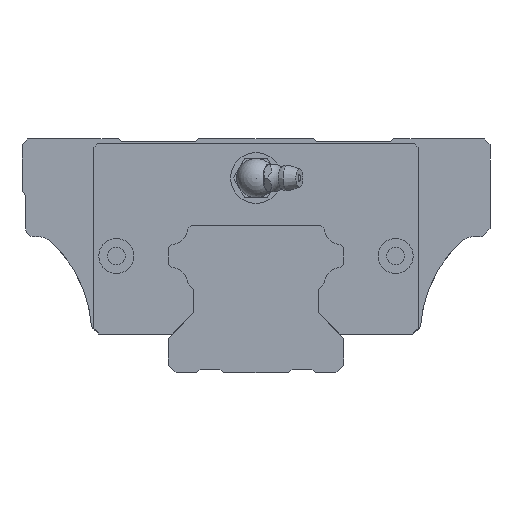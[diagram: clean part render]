
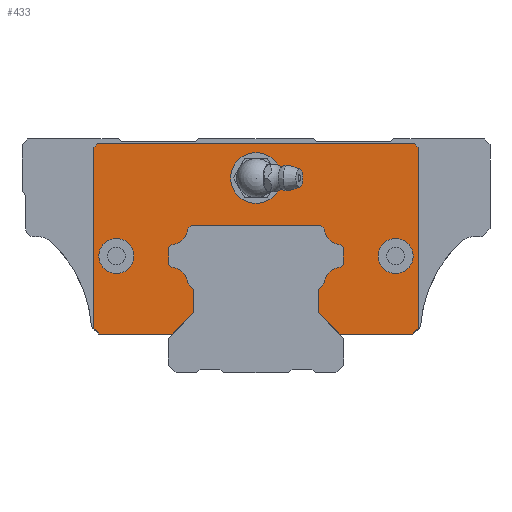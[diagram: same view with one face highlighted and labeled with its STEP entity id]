
A CAD part, front view. The second image highlights one B-rep face of the part: STEP entity #433.
In plain terms, the highlighted planar face has unit normal (0, -1, 0).
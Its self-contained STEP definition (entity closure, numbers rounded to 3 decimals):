
#128=FACE_BOUND('',#877,.T.);
#129=FACE_BOUND('',#878,.T.);
#130=FACE_BOUND('',#879,.T.);
#264=PLANE('',#3931);
#433=ADVANCED_FACE('',(#128,#129,#130,#683),#264,.F.);
#683=FACE_OUTER_BOUND('',#880,.T.);
#877=EDGE_LOOP('',(#2282));
#878=EDGE_LOOP('',(#2283));
#879=EDGE_LOOP('',(#2284));
#880=EDGE_LOOP('',(#2285,#2286,#2287,#2288,#2289,#2290,#2291,#2292,#2293,
#2294,#2295,#2296,#2297,#2298,#2299,#2300,#2301,#2302,#2303,#2304,#2305,
#2306,#2307,#2308,#2309,#2310,#2311,#2312));
#1124=LINE('',#5431,#1482);
#1129=LINE('',#5441,#1487);
#1132=LINE('',#5447,#1490);
#1135=LINE('',#5453,#1493);
#1139=LINE('',#5465,#1497);
#1142=LINE('',#5471,#1500);
#1145=LINE('',#5477,#1503);
#1149=LINE('',#5489,#1507);
#1152=LINE('',#5495,#1510);
#1155=LINE('',#5501,#1513);
#1159=LINE('',#5513,#1517);
#1162=LINE('',#5519,#1520);
#1165=LINE('',#5525,#1523);
#1169=LINE('',#5537,#1527);
#1172=LINE('',#5543,#1530);
#1175=LINE('',#5549,#1533);
#1178=LINE('',#5555,#1536);
#1237=LINE('',#5710,#1595);
#1239=LINE('',#5714,#1597);
#1241=LINE('',#5718,#1599);
#1243=LINE('',#5722,#1601);
#1245=LINE('',#5726,#1603);
#1246=LINE('',#5728,#1604);
#1248=LINE('',#5732,#1606);
#1482=VECTOR('',#4324,1.);
#1487=VECTOR('',#4331,1.);
#1490=VECTOR('',#4336,1.);
#1493=VECTOR('',#4341,1.);
#1497=VECTOR('',#4353,1.);
#1500=VECTOR('',#4358,1.);
#1503=VECTOR('',#4363,1.);
#1507=VECTOR('',#4375,1.);
#1510=VECTOR('',#4380,1.);
#1513=VECTOR('',#4385,1.);
#1517=VECTOR('',#4397,1.);
#1520=VECTOR('',#4402,1.);
#1523=VECTOR('',#4407,1.);
#1527=VECTOR('',#4419,1.);
#1530=VECTOR('',#4424,1.);
#1533=VECTOR('',#4429,1.);
#1536=VECTOR('',#4434,1.);
#1595=VECTOR('',#4591,1.);
#1597=VECTOR('',#4595,1.);
#1599=VECTOR('',#4599,1.);
#1601=VECTOR('',#4603,1.);
#1603=VECTOR('',#4607,1.);
#1604=VECTOR('',#4610,1.);
#1606=VECTOR('',#4614,1.);
#2282=ORIENTED_EDGE('',*,*,#3434,.F.);
#2283=ORIENTED_EDGE('',*,*,#3435,.F.);
#2284=ORIENTED_EDGE('',*,*,#3436,.F.);
#2285=ORIENTED_EDGE('',*,*,#3422,.F.);
#2286=ORIENTED_EDGE('',*,*,#3433,.T.);
#2287=ORIENTED_EDGE('',*,*,#3431,.T.);
#2288=ORIENTED_EDGE('',*,*,#3347,.T.);
#2289=ORIENTED_EDGE('',*,*,#3344,.F.);
#2290=ORIENTED_EDGE('',*,*,#3341,.F.);
#2291=ORIENTED_EDGE('',*,*,#3338,.T.);
#2292=ORIENTED_EDGE('',*,*,#3335,.T.);
#2293=ORIENTED_EDGE('',*,*,#3332,.T.);
#2294=ORIENTED_EDGE('',*,*,#3329,.F.);
#2295=ORIENTED_EDGE('',*,*,#3326,.F.);
#2296=ORIENTED_EDGE('',*,*,#3323,.T.);
#2297=ORIENTED_EDGE('',*,*,#3320,.F.);
#2298=ORIENTED_EDGE('',*,*,#3317,.T.);
#2299=ORIENTED_EDGE('',*,*,#3314,.T.);
#2300=ORIENTED_EDGE('',*,*,#3311,.T.);
#2301=ORIENTED_EDGE('',*,*,#3308,.T.);
#2302=ORIENTED_EDGE('',*,*,#3305,.T.);
#2303=ORIENTED_EDGE('',*,*,#3302,.F.);
#2304=ORIENTED_EDGE('',*,*,#3299,.T.);
#2305=ORIENTED_EDGE('',*,*,#3296,.F.);
#2306=ORIENTED_EDGE('',*,*,#3293,.T.);
#2307=ORIENTED_EDGE('',*,*,#3290,.T.);
#2308=ORIENTED_EDGE('',*,*,#3285,.F.);
#2309=ORIENTED_EDGE('',*,*,#3430,.T.);
#2310=ORIENTED_EDGE('',*,*,#3428,.F.);
#2311=ORIENTED_EDGE('',*,*,#3426,.F.);
#2312=ORIENTED_EDGE('',*,*,#3424,.F.);
#2897=VERTEX_POINT('',#5430);
#2898=VERTEX_POINT('',#5432);
#2902=VERTEX_POINT('',#5442);
#2904=VERTEX_POINT('',#5448);
#2906=VERTEX_POINT('',#5454);
#2908=VERTEX_POINT('',#5460);
#2910=VERTEX_POINT('',#5466);
#2912=VERTEX_POINT('',#5472);
#2914=VERTEX_POINT('',#5478);
#2916=VERTEX_POINT('',#5484);
#2918=VERTEX_POINT('',#5490);
#2920=VERTEX_POINT('',#5496);
#2922=VERTEX_POINT('',#5502);
#2924=VERTEX_POINT('',#5508);
#2926=VERTEX_POINT('',#5514);
#2928=VERTEX_POINT('',#5520);
#2930=VERTEX_POINT('',#5526);
#2932=VERTEX_POINT('',#5532);
#2934=VERTEX_POINT('',#5538);
#2936=VERTEX_POINT('',#5544);
#2938=VERTEX_POINT('',#5550);
#2940=VERTEX_POINT('',#5556);
#2986=VERTEX_POINT('',#5709);
#2987=VERTEX_POINT('',#5711);
#2988=VERTEX_POINT('',#5715);
#2989=VERTEX_POINT('',#5719);
#2990=VERTEX_POINT('',#5723);
#2991=VERTEX_POINT('',#5729);
#2992=VERTEX_POINT('',#5735);
#2993=VERTEX_POINT('',#5737);
#2994=VERTEX_POINT('',#5739);
#3285=EDGE_CURVE('',#2897,#2898,#1124,.T.);
#3290=EDGE_CURVE('',#2902,#2898,#1129,.T.);
#3293=EDGE_CURVE('',#2904,#2902,#1132,.T.);
#3296=EDGE_CURVE('',#2904,#2906,#1135,.T.);
#3299=EDGE_CURVE('',#2908,#2906,#3692,.T.);
#3302=EDGE_CURVE('',#2908,#2910,#1139,.T.);
#3305=EDGE_CURVE('',#2912,#2910,#1142,.T.);
#3308=EDGE_CURVE('',#2914,#2912,#1145,.T.);
#3311=EDGE_CURVE('',#2916,#2914,#3694,.T.);
#3314=EDGE_CURVE('',#2918,#2916,#1149,.T.);
#3317=EDGE_CURVE('',#2920,#2918,#1152,.T.);
#3320=EDGE_CURVE('',#2920,#2922,#1155,.T.);
#3323=EDGE_CURVE('',#2924,#2922,#3696,.T.);
#3326=EDGE_CURVE('',#2924,#2926,#1159,.T.);
#3329=EDGE_CURVE('',#2926,#2928,#1162,.T.);
#3332=EDGE_CURVE('',#2930,#2928,#1165,.T.);
#3335=EDGE_CURVE('',#2932,#2930,#3698,.T.);
#3338=EDGE_CURVE('',#2934,#2932,#1169,.T.);
#3341=EDGE_CURVE('',#2934,#2936,#1172,.T.);
#3344=EDGE_CURVE('',#2936,#2938,#1175,.T.);
#3347=EDGE_CURVE('',#2940,#2938,#1178,.T.);
#3422=EDGE_CURVE('',#2986,#2987,#1237,.T.);
#3424=EDGE_CURVE('',#2987,#2988,#1239,.T.);
#3426=EDGE_CURVE('',#2988,#2989,#1241,.T.);
#3428=EDGE_CURVE('',#2989,#2990,#1243,.T.);
#3430=EDGE_CURVE('',#2897,#2990,#1245,.T.);
#3431=EDGE_CURVE('',#2991,#2940,#1246,.T.);
#3433=EDGE_CURVE('',#2986,#2991,#1248,.T.);
#3434=EDGE_CURVE('',#2992,#2992,#3716,.T.);
#3435=EDGE_CURVE('',#2993,#2993,#3717,.T.);
#3436=EDGE_CURVE('',#2994,#2994,#3718,.T.);
#3692=CIRCLE('',#3848,4.35);
#3694=CIRCLE('',#3854,4.35);
#3696=CIRCLE('',#3860,4.35);
#3698=CIRCLE('',#3866,4.35);
#3716=CIRCLE('',#3928,6.5);
#3717=CIRCLE('',#3929,4.5);
#3718=CIRCLE('',#3930,4.5);
#3848=AXIS2_PLACEMENT_3D('',#5459,#4346,#4347);
#3854=AXIS2_PLACEMENT_3D('',#5483,#4368,#4369);
#3860=AXIS2_PLACEMENT_3D('',#5507,#4390,#4391);
#3866=AXIS2_PLACEMENT_3D('',#5531,#4412,#4413);
#3928=AXIS2_PLACEMENT_3D('',#5734,#4617,#4618);
#3929=AXIS2_PLACEMENT_3D('',#5736,#4619,#4620);
#3930=AXIS2_PLACEMENT_3D('',#5738,#4621,#4622);
#3931=AXIS2_PLACEMENT_3D('',#5740,#4623,#4624);
#4324=DIRECTION('',(-1.,0.,0.));
#4331=DIRECTION('',(0.707,0.,-0.707));
#4336=DIRECTION('',(0.,0.,-1.));
#4341=DIRECTION('',(0.707,0.,0.707));
#4346=DIRECTION('',(0.,-1.,0.));
#4347=DIRECTION('',(1.,0.,0.));
#4353=DIRECTION('',(0.707,0.,0.707));
#4358=DIRECTION('',(0.,0.,-1.));
#4363=DIRECTION('',(0.707,0.,-0.707));
#4368=DIRECTION('',(0.,-1.,0.));
#4369=DIRECTION('',(1.,0.,0.));
#4375=DIRECTION('',(0.707,0.,-0.707));
#4380=DIRECTION('',(1.,0.,0.));
#4385=DIRECTION('',(-0.707,0.,-0.707));
#4390=DIRECTION('',(0.,-1.,0.));
#4391=DIRECTION('',(1.,0.,0.));
#4397=DIRECTION('',(-0.707,0.,-0.707));
#4402=DIRECTION('',(0.,0.,-1.));
#4407=DIRECTION('',(-0.707,0.,0.707));
#4412=DIRECTION('',(0.,-1.,0.));
#4413=DIRECTION('',(1.,0.,0.));
#4419=DIRECTION('',(-0.707,0.,0.707));
#4424=DIRECTION('',(0.,0.,-1.));
#4429=DIRECTION('',(-0.707,0.,-0.707));
#4434=DIRECTION('',(1.,0.,0.));
#4591=DIRECTION('',(0.707,0.,0.707));
#4595=DIRECTION('',(1.,0.,0.));
#4599=DIRECTION('',(0.707,0.,-0.707));
#4603=DIRECTION('',(0.,0.,-1.));
#4607=DIRECTION('',(0.707,0.,0.707));
#4610=DIRECTION('',(0.707,0.,-0.707));
#4614=DIRECTION('',(0.,0.,-1.));
#4617=DIRECTION('',(0.,-1.,0.));
#4618=DIRECTION('',(0.,0.,-1.));
#4619=DIRECTION('',(0.,-1.,0.));
#4620=DIRECTION('',(0.,0.,-1.));
#4621=DIRECTION('',(0.,-1.,0.));
#4622=DIRECTION('',(0.,0.,-1.));
#4623=DIRECTION('',(0.,1.,0.));
#4624=DIRECTION('',(0.,0.,-1.));
#5430=CARTESIAN_POINT('',(40.146,-83.75,10.));
#5431=CARTESIAN_POINT('',(40.146,-83.75,10.));
#5432=CARTESIAN_POINT('',(21.359,-83.75,10.));
#5441=CARTESIAN_POINT('',(15.9,-83.75,15.459));
#5442=CARTESIAN_POINT('',(15.9,-83.75,15.459));
#5447=CARTESIAN_POINT('',(15.9,-83.75,21.441));
#5448=CARTESIAN_POINT('',(15.9,-83.75,21.441));
#5453=CARTESIAN_POINT('',(15.9,-83.75,21.441));
#5454=CARTESIAN_POINT('',(17.575,-83.75,23.116));
#5459=CARTESIAN_POINT('',(21.912,-83.75,22.788));
#5460=CARTESIAN_POINT('',(21.584,-83.75,27.125));
#5465=CARTESIAN_POINT('',(21.584,-83.75,27.125));
#5466=CARTESIAN_POINT('',(22.4,-83.75,27.941));
#5471=CARTESIAN_POINT('',(22.4,-83.75,32.059));
#5472=CARTESIAN_POINT('',(22.4,-83.75,32.059));
#5477=CARTESIAN_POINT('',(21.584,-83.75,32.875));
#5478=CARTESIAN_POINT('',(21.584,-83.75,32.875));
#5483=CARTESIAN_POINT('',(21.912,-83.75,37.212));
#5484=CARTESIAN_POINT('',(17.575,-83.75,36.884));
#5489=CARTESIAN_POINT('',(16.559,-83.75,37.9));
#5490=CARTESIAN_POINT('',(16.559,-83.75,37.9));
#5495=CARTESIAN_POINT('',(-16.559,-83.75,37.9));
#5496=CARTESIAN_POINT('',(-16.559,-83.75,37.9));
#5501=CARTESIAN_POINT('',(-16.559,-83.75,37.9));
#5502=CARTESIAN_POINT('',(-17.575,-83.75,36.884));
#5507=CARTESIAN_POINT('',(-21.912,-83.75,37.212));
#5508=CARTESIAN_POINT('',(-21.584,-83.75,32.875));
#5513=CARTESIAN_POINT('',(-21.584,-83.75,32.875));
#5514=CARTESIAN_POINT('',(-22.4,-83.75,32.059));
#5519=CARTESIAN_POINT('',(-22.4,-83.75,32.059));
#5520=CARTESIAN_POINT('',(-22.4,-83.75,27.941));
#5525=CARTESIAN_POINT('',(-21.584,-83.75,27.125));
#5526=CARTESIAN_POINT('',(-21.584,-83.75,27.125));
#5531=CARTESIAN_POINT('',(-21.912,-83.75,22.788));
#5532=CARTESIAN_POINT('',(-17.575,-83.75,23.116));
#5537=CARTESIAN_POINT('',(-15.9,-83.75,21.441));
#5538=CARTESIAN_POINT('',(-15.9,-83.75,21.441));
#5543=CARTESIAN_POINT('',(-15.9,-83.75,21.441));
#5544=CARTESIAN_POINT('',(-15.9,-83.75,15.459));
#5549=CARTESIAN_POINT('',(-15.9,-83.75,15.459));
#5550=CARTESIAN_POINT('',(-21.359,-83.75,10.));
#5555=CARTESIAN_POINT('',(-40.146,-83.75,10.));
#5556=CARTESIAN_POINT('',(-40.146,-83.75,10.));
#5709=CARTESIAN_POINT('',(-41.55,-83.75,57.896));
#5710=CARTESIAN_POINT('',(-41.55,-83.75,57.896));
#5711=CARTESIAN_POINT('',(-40.696,-83.75,58.75));
#5714=CARTESIAN_POINT('',(-40.696,-83.75,58.75));
#5715=CARTESIAN_POINT('',(40.696,-83.75,58.75));
#5718=CARTESIAN_POINT('',(40.696,-83.75,58.75));
#5719=CARTESIAN_POINT('',(41.55,-83.75,57.896));
#5722=CARTESIAN_POINT('',(41.55,-83.75,57.896));
#5723=CARTESIAN_POINT('',(41.55,-83.75,11.404));
#5726=CARTESIAN_POINT('',(40.146,-83.75,10.));
#5728=CARTESIAN_POINT('',(-41.55,-83.75,11.404));
#5729=CARTESIAN_POINT('',(-41.55,-83.75,11.404));
#5732=CARTESIAN_POINT('',(-41.55,-83.75,57.896));
#5734=CARTESIAN_POINT('',(0.,-83.75,50.));
#5735=CARTESIAN_POINT('',(0.,-83.75,43.5));
#5736=CARTESIAN_POINT('',(35.8,-83.75,30.));
#5737=CARTESIAN_POINT('',(35.8,-83.75,25.5));
#5738=CARTESIAN_POINT('',(-35.8,-83.75,30.));
#5739=CARTESIAN_POINT('',(-35.8,-83.75,25.5));
#5740=CARTESIAN_POINT('',(21.912,-83.75,22.788));
